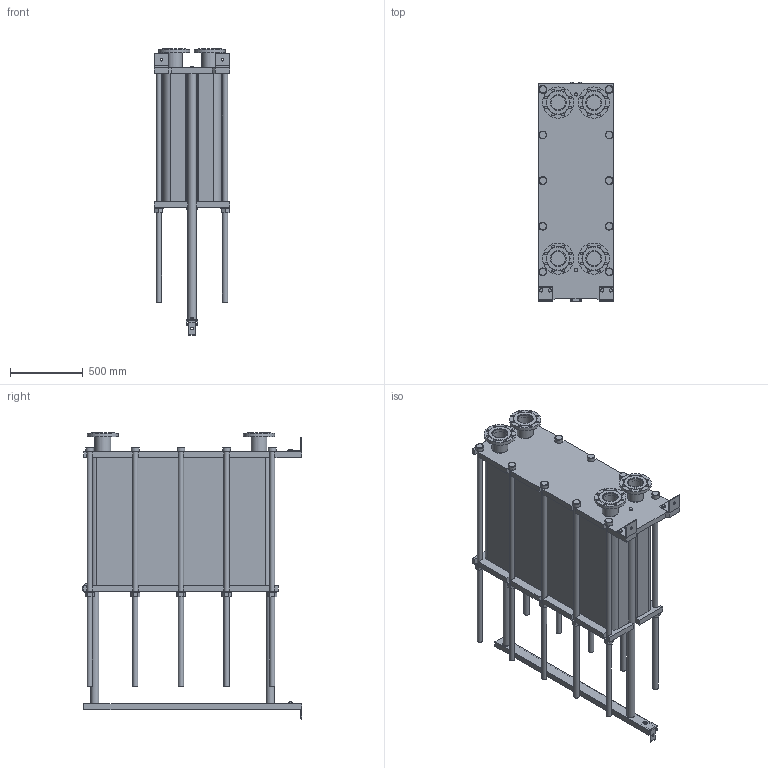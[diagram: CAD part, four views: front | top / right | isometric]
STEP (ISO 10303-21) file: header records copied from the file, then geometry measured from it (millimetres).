
FILE_DESCRIPTION(/* description */ (''),/* implementation_level */ '2;1');
FILE_NAME(/* name */ 'C:\Users\zhuro\Desktop\ENCO\TO\ЭН-04\ЭН-0,5-04-256-1.stp',/* time_stamp */ '2022-06-06T11:07:07+03:00',/* author */ ('zhuro'),/* organization */ (''),/* preprocessor_version */ 'ST-DEVELOPER v18.1',/* originating_system */ 'Autodesk Inventor 2022',/* authorisation */ '');
FILE_SCHEMA (('AUTOMOTIVE_DESIGN { 1 0 10303 214 3 1 1 }'));
Length unit declared in the file: millimetre
Products named in the file (1): ЭН-0,5-04-256-1
Bounding box: 520 x 1510 x 1973 mm (x, y, z)
Volume: 520988136.7 mm3; surface area: 11785716.7 mm2
Topology: 45 solids, 45 shells, 668 faces, 1611 edges, 1048 vertices
Faces by surface type: plane 457, cylinder 166, cone 39, torus 6
Full cylindrical faces by diameter (mm): 8 x4, 10 x2, 16 x8, 18 x35, 36 x25, 40 x2, 42 x1, 45 x4, 54 x10, 57 x2, 60 x10, 68 x2, 100 x4, 110 x8, 215 x4
Entity records: 23607 total; most frequent: CARTESIAN_POINT 7348, DIRECTION 3371, ORIENTED_EDGE 3142, EDGE_CURVE 1571, AXIS2_PLACEMENT_3D 1199, VERTEX_POINT 1044, LINE 973, VECTOR 973
